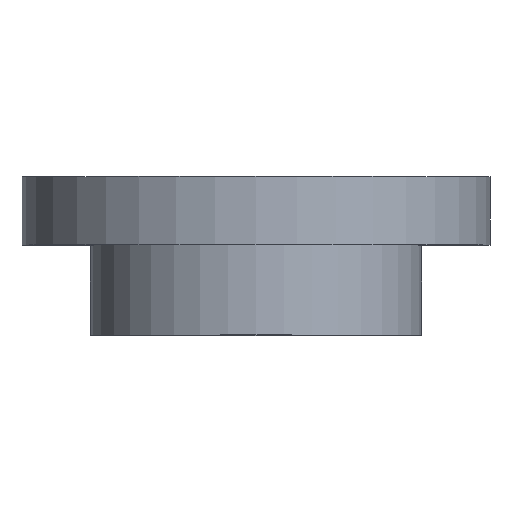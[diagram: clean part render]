
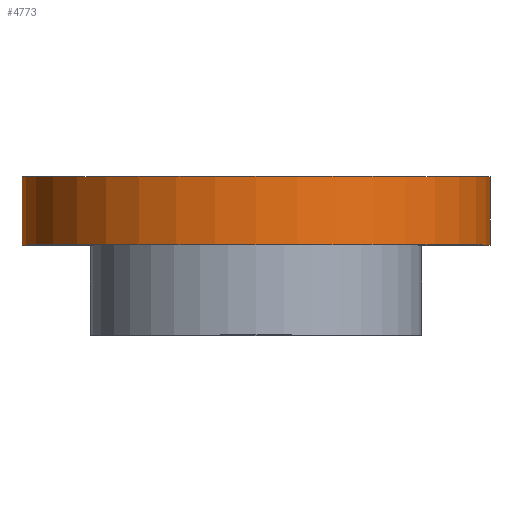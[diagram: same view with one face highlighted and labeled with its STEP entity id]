
A CAD part, top view. The second image highlights one B-rep face of the part: STEP entity #4773.
In plain terms, the highlighted cylindrical face has radius 96 mm (diameter 192 mm), a partial arc.
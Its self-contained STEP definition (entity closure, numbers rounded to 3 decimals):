
#56 = CARTESIAN_POINT ( 'NONE',  ( 0., 28., 0. ) ) ;
#242 = ORIENTED_EDGE ( 'NONE', *, *, #11311, .F. ) ;
#425 = EDGE_CURVE ( 'NONE', #1001, #9555, #13117, .T. ) ;
#1001 = VERTEX_POINT ( 'NONE', #2197 ) ;
#1754 = CARTESIAN_POINT ( 'NONE',  ( 0., 0., 0. ) ) ;
#2197 = CARTESIAN_POINT ( 'NONE',  ( 0., 28., 96. ) ) ;
#2296 = AXIS2_PLACEMENT_3D ( 'NONE', #7514, #9793, #5969 ) ;
#2458 = EDGE_LOOP ( 'NONE', ( #13190, #5980, #9817, #242 ) ) ;
#2730 = AXIS2_PLACEMENT_3D ( 'NONE', #56, #5184, #3411 ) ;
#2864 = VERTEX_POINT ( 'NONE', #10373 ) ;
#3384 = CARTESIAN_POINT ( 'NONE',  ( 0., 28., 96. ) ) ;
#3411 = DIRECTION ( 'NONE',  ( 0., 0., 1. ) ) ;
#3507 = LINE ( 'NONE', #3384, #5311 ) ;
#4249 = CARTESIAN_POINT ( 'NONE',  ( 0., 0., -96. ) ) ;
#4414 = CYLINDRICAL_SURFACE ( 'NONE', #2296, 96. ) ;
#4773 = ADVANCED_FACE ( 'NONE', ( #7574 ), #4414, .T. ) ;
#4820 = VECTOR ( 'NONE', #5008, 1000. ) ;
#5008 = DIRECTION ( 'NONE',  ( 0., -1., 0. ) ) ;
#5184 = DIRECTION ( 'NONE',  ( 0., 1., 0. ) ) ;
#5311 = VECTOR ( 'NONE', #5501, 1000. ) ;
#5501 = DIRECTION ( 'NONE',  ( 0., -1., 0. ) ) ;
#5898 = LINE ( 'NONE', #10060, #4820 ) ;
#5924 = DIRECTION ( 'NONE',  ( 0., 0., 1. ) ) ;
#5969 = DIRECTION ( 'NONE',  ( 0., 0., -1. ) ) ;
#5980 = ORIENTED_EDGE ( 'NONE', *, *, #7970, .T. ) ;
#7514 = CARTESIAN_POINT ( 'NONE',  ( 0., 28., 0. ) ) ;
#7574 = FACE_OUTER_BOUND ( 'NONE', #2458, .T. ) ;
#7970 = EDGE_CURVE ( 'NONE', #1001, #2864, #3507, .T. ) ;
#8372 = CARTESIAN_POINT ( 'NONE',  ( 0., 28., -96. ) ) ;
#9127 = DIRECTION ( 'NONE',  ( 0., 1., 0. ) ) ;
#9555 = VERTEX_POINT ( 'NONE', #8372 ) ;
#9793 = DIRECTION ( 'NONE',  ( 0., -1., 0. ) ) ;
#9817 = ORIENTED_EDGE ( 'NONE', *, *, #10114, .T. ) ;
#10060 = CARTESIAN_POINT ( 'NONE',  ( 0., 28., -96. ) ) ;
#10114 = EDGE_CURVE ( 'NONE', #2864, #12682, #11384, .T. ) ;
#10373 = CARTESIAN_POINT ( 'NONE',  ( 0., 0., 96. ) ) ;
#10516 = AXIS2_PLACEMENT_3D ( 'NONE', #1754, #9127, #5924 ) ;
#11311 = EDGE_CURVE ( 'NONE', #9555, #12682, #5898, .T. ) ;
#11384 = CIRCLE ( 'NONE', #10516, 96. ) ;
#12682 = VERTEX_POINT ( 'NONE', #4249 ) ;
#13117 = CIRCLE ( 'NONE', #2730, 96. ) ;
#13190 = ORIENTED_EDGE ( 'NONE', *, *, #425, .F. ) ;
